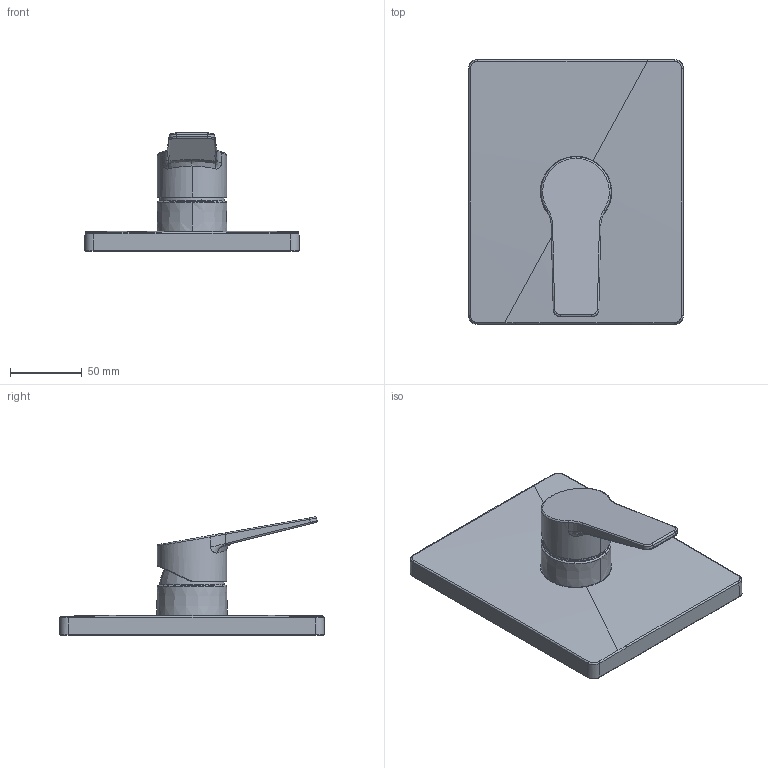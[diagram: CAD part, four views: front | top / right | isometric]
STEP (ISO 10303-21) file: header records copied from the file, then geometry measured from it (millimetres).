
FILE_DESCRIPTION (( 'STEP AP203' ), '1' );
FILE_NAME ('89859083.STEP', '2024-10-08T13:51:31', ( '' ), ( '' ), 'SwSTEP 2.0', 'SolidWorks 2024', '' );
FILE_SCHEMA (( 'CONFIG_CONTROL_DESIGN' ));
Length unit declared in the file: millimetre
Products named in the file (1): 89859083
Bounding box: 149.97 x 184.97 x 82.45 mm (x, y, z)
Volume: 487026.3 mm3; surface area: 76947.2 mm2
Topology: 1 solids, 1 shells, 80 faces, 191 edges, 116 vertices
Faces by surface type: bspline 33, cylinder 23, plane 14, torus 6, cone 2, sphere 2
Entity records: 5813 total; most frequent: CARTESIAN_POINT 4192, ORIENTED_EDGE 382, DIRECTION 214, EDGE_CURVE 191, VERTEX_POINT 116, B_SPLINE_CURVE_WITH_KNOTS 101, AXIS2_PLACEMENT_3D 84, EDGE_LOOP 83
